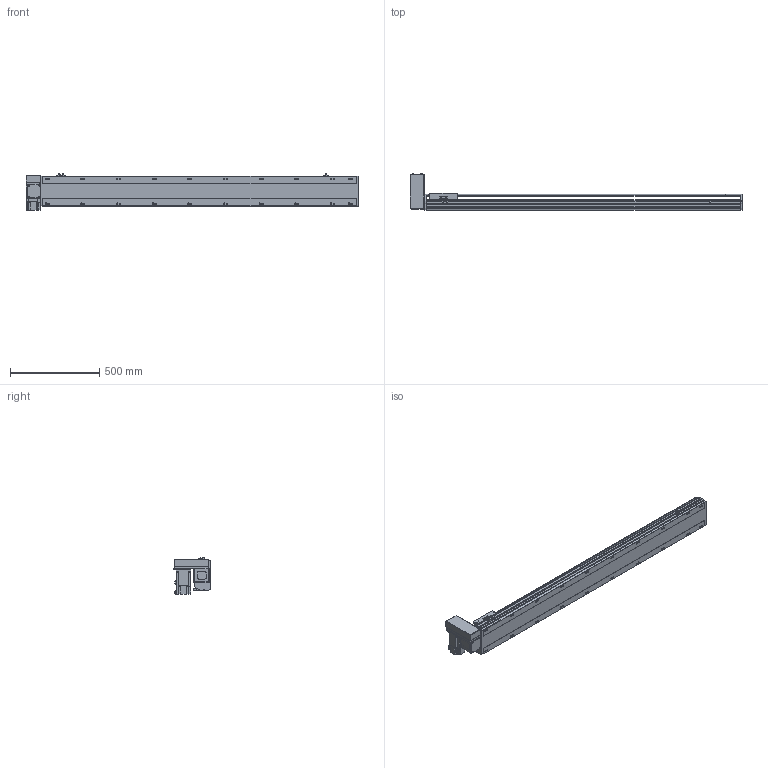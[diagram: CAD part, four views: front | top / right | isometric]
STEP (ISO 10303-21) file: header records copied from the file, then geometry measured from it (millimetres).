
FILE_DESCRIPTION( ( 'STEP AP214' ), '1' );
FILE_NAME( 'x:/temp/worker_5/temp/exporttempdir_3988_130_QAbED/format_0/PBS170-P40-S1500-RU-T75-C1-N(0).stp', '2022-06-08T05:58:46', ( 'License CC BY-ND 4.0' ), ( 'CADENAS' ), ' ', 'PARTsolutions', ' ' );
FILE_SCHEMA( ( 'AUTOMOTIVE_DESIGN { 1 0 10303 214 1 1 1 1 }' ) );
Length unit declared in the file: millimetre
Products named in the file (7): PBS170-P40-S1500-RU-T75-C1-N(0); _PBS170-S1500()_body; _PBS170T-RU_motors; _T75-p1; _PBS170_sliser; _PBS170_plant; _PBS170_sensor
Assembly tree (8 placements, depth 2):
  PBS170-P40-S1500-RU-T75-C1-N(0)
    _PBS170-S1500()_body
    _PBS170T-RU_motors
    _T75-p1
    _PBS170_sliser
    _PBS170_plant
    _PBS170_sensor  x3
Bounding box: 1863 x 206 x 205.3 mm (x, y, z)
Volume: 14551993.5 mm3; surface area: 1870427.2 mm2
Topology: 8 solids, 8 shells, 1114 faces, 2955 edges, 1926 vertices
Faces by surface type: plane 699, cylinder 355, cone 50, sphere 8, torus 2
Full cylindrical faces by diameter (mm): 3.242 x4, 4 x2, 4.4 x4, 4.5 x6, 4.917 x4, 6 x9, 6.647 x28, 7 x2, 7.5 x4, 8 x8, 8.5 x20, 10 x4, 10.5 x20, 11 x2, 30 x2, 40 x1, 70 x1
Entity records: 41024 total; most frequent: CARTESIAN_POINT 6557, DIRECTION 5440, ORIENTED_EDGE 5148, EDGE_CURVE 2574, AXIS2_PLACEMENT_3D 1897, VERTEX_POINT 1778, LINE 1646, VECTOR 1646
